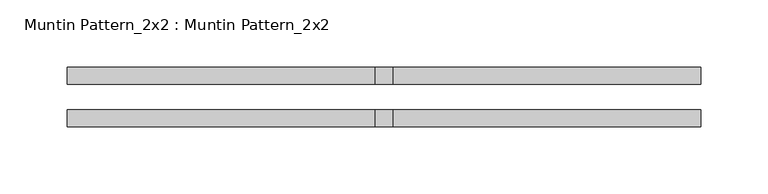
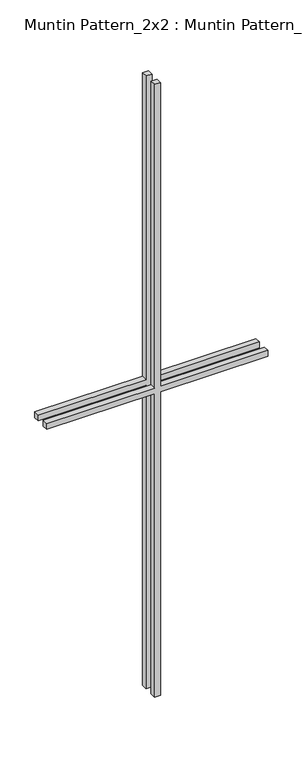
"""IFC4 building model written with IfcOpenShell, lengths in millimetres: proxy geometry, Muntin Pattern_2x2 : Muntin Pattern_2x2."""

from ifc_helpers import new_model, si_unit, frame, origin, place, context, project, spatial, polyline, outline, extrude, source, transform, mapped, element, save


def muntin_pattern_2x2_muntin_pattern_2x2_6dad3731(model_context):
    return source(origin(), model_context, "Body", "SweptSolid", [
        extrude(outline(polyline([(698.5, -6.35), (698.5, -236.5375), (685.8, -236.5375), (685.8, -6.35), (0.0, -6.35), (0.0, 6.35), (685.8, 6.35), (685.8, 236.5375), (698.5, 236.5375), (698.5, 6.35), (1384.3, 6.35), (1384.3, -6.35), (698.5, -6.35)])), frame((0.0, 9.525, 0.0), z_axis=(0.0, 1.0, 0.0), x_axis=(0.0, 0.0, 1.0)), (0.0, 0.0, 1.0), 12.7),
        extrude(outline(polyline([(698.5, -6.35), (698.5, -236.5375), (685.8, -236.5375), (685.8, -6.35), (0.0, -6.35), (0.0, 6.35), (685.8, 6.35), (685.8, 236.5375), (698.5, 236.5375), (698.5, 6.35), (1384.3, 6.35), (1384.3, -6.35), (698.5, -6.35)])), frame((0.0, -22.225, 0.0), z_axis=(0.0, 1.0, 0.0), x_axis=(0.0, 0.0, 1.0)), (0.0, 0.0, 1.0), 12.7),
    ])


if __name__ == "__main__":
    model = new_model("IFC4")
    model_context = context("Model", 3, world=origin())
    ifc_project = project(units=[si_unit("LENGTHUNIT", "METRE", prefix="MILLI")], contexts=[model_context])
    site = spatial("IfcSite", under=ifc_project)
    building = spatial("IfcBuilding", under=site)
    placement = place(None, origin())
    muntin_pattern_2x2_muntin_pattern_2x2_shape = muntin_pattern_2x2_muntin_pattern_2x2_6dad3731(model_context)
    element("IfcBuildingElementProxy", 1, Name="Muntin Pattern_2x2 : Muntin Pattern_2x2", ObjectType="Muntin Pattern_2x2 : Muntin Pattern_2x2", at=placement, inside=building, context=model_context, shape_type="MappedRepresentation", body=[
        mapped(muntin_pattern_2x2_muntin_pattern_2x2_shape, transform((0.0, 0.0, 0.0), x_axis=(1.0, 0.0, 0.0), y_axis=(0.0, 1.0, 0.0), z_axis=(0.0, 0.0, 1.0))),
    ])
    save(model, "model.ifc")
